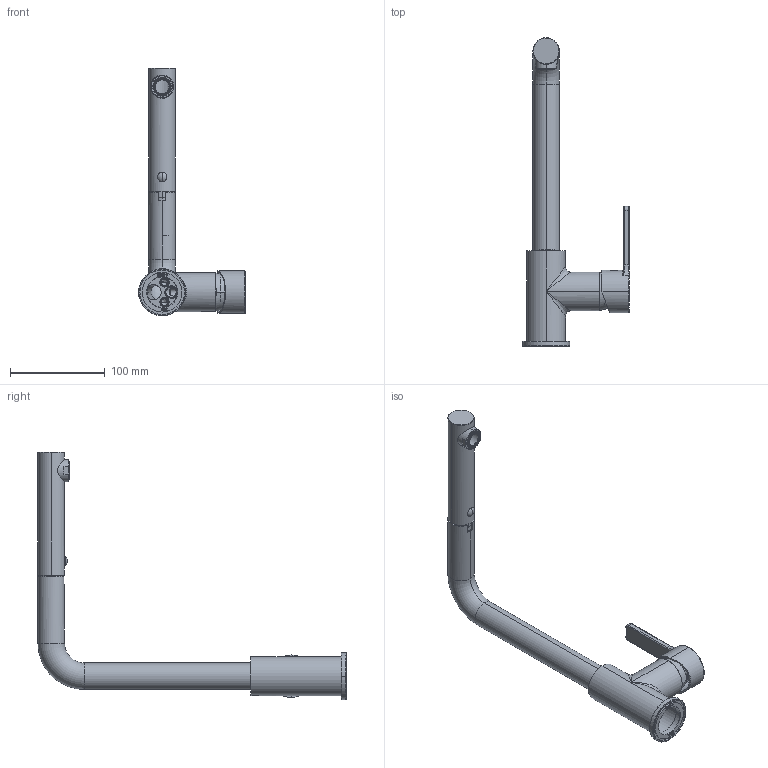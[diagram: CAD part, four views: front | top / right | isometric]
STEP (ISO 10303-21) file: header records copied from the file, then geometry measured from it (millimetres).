
FILE_DESCRIPTION((''),'2;1');
FILE_NAME('F7029NOT_FILE_3D','2018-04-24T',('ivanv'),(''),'CREO PARAMETRIC BY PTC INC, 2016260','CREO PARAMETRIC BY PTC INC, 2016260','');
FILE_SCHEMA(('CONFIG_CONTROL_DESIGN'));
Length unit declared in the file: millimetre
Products named in the file (1): F7029NOT_FILE_3D
Bounding box: 113 x 326 x 261.9 mm (x, y, z)
Volume: 241216 mm3; surface area: 125988.4 mm2
Topology: 4 solids, 4 shells, 1362 faces, 3578 edges, 2292 vertices
Faces by surface type: plane 850, cylinder 227, extrusion 81, bspline 75, torus 64, cone 59, sphere 6
Entity records: 46855 total; most frequent: CARTESIAN_POINT 13758, ORIENTED_EDGE 7124, DIRECTION 6363, EDGE_CURVE 3562, VECTOR 2605, LINE 2524, VERTEX_POINT 2292, AXIS2_PLACEMENT_3D 1879
